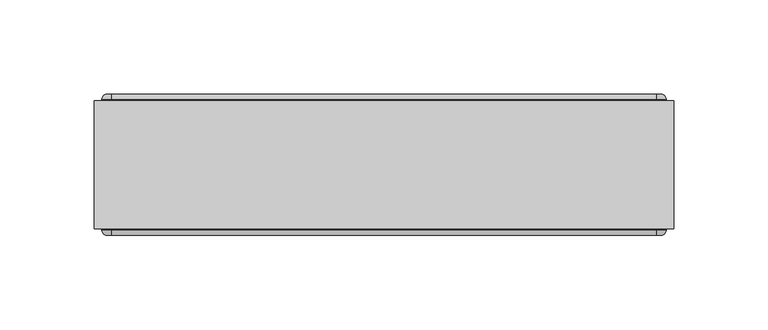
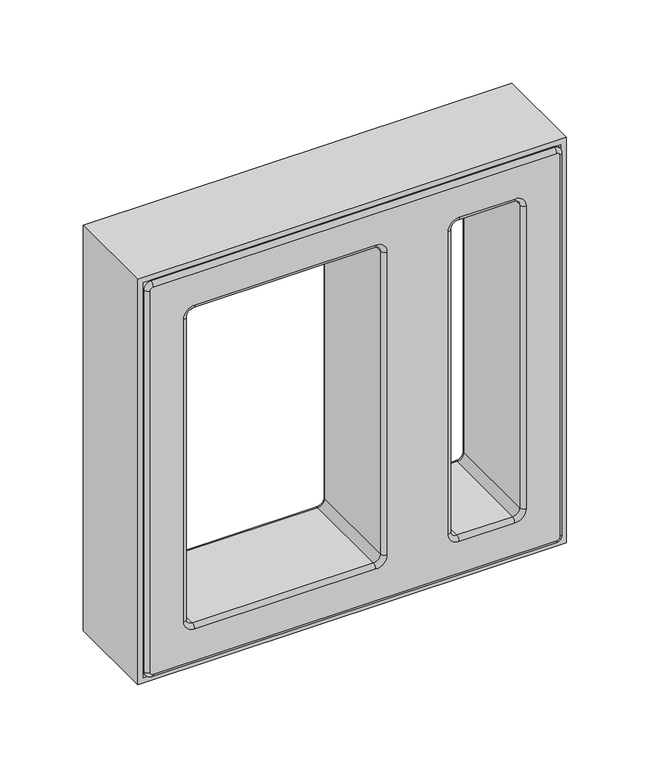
"""IFC4 building model written with IfcOpenShell, lengths in millimetres: plate geometry, PORTOBELLO - ELEMENTO ASSIM BRANCO 30X30 (PAINEL CORTINA) : ASSIM BRANCO."""

from ifc_helpers import new_model, si_unit, point, frame, origin, place, context, project, spatial, polyline, circle_curve, ellipse_curve, trimmed, outline, extrude, source, transform, mapped, element, save
from ifc_brep_helpers import plane_surface, cylinder_surface, revolved_surface, advanced_brep


def plate_08ec880d(model_context):
    return source(origin(), model_context, "Body", "SolidModel", [
        advanced_brep(
        [(-145.0, -37.5, 301.0), (-147.0, -37.5, 299.0), (-147.0, -37.5, 9.0), (-145.0, -37.5, 7.0), (145.0, -37.5, 7.0), (147.0, -37.5, 9.0), (147.0, -37.5, 299.0), (145.0, -37.5, 301.0), (-123.0, -37.5, 269.0), (-115.0, -37.5, 277.0), (15.0, -37.5, 277.0), (23.0, -37.5, 269.0), (23.0, -37.5, 39.0), (15.0, -37.5, 31.0), (-115.0, -37.5, 31.0), (-123.0, -37.5, 39.0), (67.0, -37.5, 269.0), (75.0, -37.5, 277.0), (115.0, -37.5, 277.0), (123.0, -37.5, 269.0), (123.0, -37.5, 39.0), (115.0, -37.5, 31.0), (75.0, -37.5, 31.0), (67.0, -37.5, 39.0), (-147.0, 37.5, 299.0), (-145.0, 37.5, 301.0), (145.0, 37.5, 301.0), (147.0, 37.5, 299.0), (147.0, 37.5, 9.0), (145.0, 37.5, 7.0), (-145.0, 37.5, 7.0), (-147.0, 37.5, 9.0), (-115.0, 37.5, 277.0), (-123.0, 37.5, 269.0), (-123.0, 37.5, 39.0), (-115.0, 37.5, 31.0), (15.0, 37.5, 31.0), (23.0, 37.5, 39.0), (23.0, 37.5, 269.0), (15.0, 37.5, 277.0), (75.0, 37.5, 277.0), (67.0, 37.5, 269.0), (67.0, 37.5, 39.0), (75.0, 37.5, 31.0), (115.0, 37.5, 31.0), (123.0, 37.5, 39.0), (123.0, 37.5, 269.0), (115.0, 37.5, 277.0), (-145.0, -34.5000013, 304.0), (-145.0, 34.5, 304.0), (-150.0, 34.5, 299.0), (-150.0, -34.5000025, 299.0), (-150.0, 34.5, 9.0), (-150.0, -34.5, 9.0), (-145.0, 34.5, 4.0), (-145.0, -34.5000025, 4.0), (145.0, 34.5, 4.0), (145.0, -34.5, 4.0), (150.0, 34.5, 9.0), (150.0, -34.5000025, 9.0), (150.0, 34.5, 299.0), (150.0, -34.5, 299.0), (145.0, 34.5, 304.0), (145.0, -34.5000025, 304.0), (-120.0, -34.5000026, 39.0), (-120.0, 34.5, 39.0), (-120.0, 34.5, 269.0), (-120.0, -34.5000016, 269.0), (-115.0, 34.5, 274.0), (-115.0, -34.5000016, 274.0), (15.0, 34.5, 274.0), (15.0, -34.5, 274.0), (20.0, 34.5, 269.0), (20.0, -34.5000016, 269.0), (20.0, 34.5, 39.0), (20.0, -34.5, 39.0), (15.0, 34.5, 34.0), (15.0, -34.5000016, 34.0), (-115.0, 34.5, 34.0), (-115.0, -34.5, 34.0), (120.0, -34.5000026, 269.0), (120.0, 34.5, 269.0), (120.0, 34.5, 39.0), (120.0, -34.5, 39.0), (115.0, 34.5, 34.0), (115.0, -34.5000017, 34.0), (75.0, 34.5, 34.0), (75.0, -34.5, 34.0), (70.0, 34.5, 39.0), (70.0, -34.5000017, 39.0), (70.0, 34.5, 269.0), (70.0, -34.5000016, 269.0), (75.0, 34.5, 274.0), (75.0, -34.5000016, 274.0), (115.0, 34.5, 274.0), (115.0, -34.5, 274.0)],
        [
            (0, 1, circle_curve(frame((-145.0, -37.5, 299.0), z_axis=(0.0, -1.0, 0.0), x_axis=(0.0, 0.0, 1.0)), 2.0)),
            (1, 2),
            (2, 3, circle_curve(frame((-145.0, -37.5, 9.0), z_axis=(0.0, -1.0, 0.0), x_axis=(-1.0, 0.0, 0.0)), 2.0)),
            (3, 4),
            (4, 5, circle_curve(frame((145.0, -37.5, 9.0), z_axis=(0.0, -1.0, 0.0), x_axis=(0.0, 0.0, -1.0)), 2.0)),
            (5, 6),
            (6, 7, circle_curve(frame((145.0, -37.5, 299.0), z_axis=(0.0, -1.0, 0.0), x_axis=(1.0, 0.0, 0.0)), 2.0)),
            (7, 0),
            (8, 9, circle_curve(frame((-115.0, -37.5, 269.0), z_axis=(0.0, 1.0, 0.0), x_axis=(-1.0, 0.0, 0.0)), 8.0)),
            (9, 10),
            (10, 11, circle_curve(frame((15.0, -37.5, 269.0), z_axis=(0.0, 1.0, 0.0), x_axis=(0.0, 0.0, 1.0)), 8.0)),
            (11, 12),
            (12, 13, circle_curve(frame((15.0, -37.5, 39.0), z_axis=(0.0, 1.0, 0.0), x_axis=(1.0, 0.0, 0.0)), 8.0)),
            (13, 14),
            (14, 15, circle_curve(frame((-115.0, -37.5, 39.0), z_axis=(0.0, 1.0, 0.0), x_axis=(0.0, 0.0, -1.0)), 8.0)),
            (15, 8),
            (16, 17, circle_curve(frame((75.0, -37.5, 269.0), z_axis=(0.0, 1.0, 0.0), x_axis=(-1.0, 0.0, 0.0)), 8.0)),
            (17, 18),
            (18, 19, circle_curve(frame((115.0, -37.5, 269.0), z_axis=(0.0, 1.0, 0.0), x_axis=(0.0, 0.0, 1.0)), 8.0)),
            (19, 20),
            (20, 21, circle_curve(frame((115.0, -37.5, 39.0), z_axis=(0.0, 1.0, 0.0), x_axis=(1.0, 0.0, 0.0)), 8.0)),
            (21, 22),
            (22, 23, circle_curve(frame((75.0, -37.5, 39.0), z_axis=(0.0, 1.0, 0.0), x_axis=(0.0, 0.0, -1.0)), 8.0)),
            (23, 16),
            (24, 25, circle_curve(frame((-145.0, 37.5, 299.0), z_axis=(0.0, 1.0, 0.0), x_axis=(0.0, 0.0, 1.0)), 2.0)),
            (25, 26),
            (26, 27, circle_curve(frame((145.0, 37.5, 299.0), z_axis=(0.0, 1.0, 0.0), x_axis=(1.0, 0.0, 0.0)), 2.0)),
            (27, 28),
            (28, 29, circle_curve(frame((145.0, 37.5, 9.0), z_axis=(0.0, 1.0, 0.0), x_axis=(0.0, 0.0, -1.0)), 2.0)),
            (29, 30),
            (30, 31, circle_curve(frame((-145.0, 37.5, 9.0), z_axis=(0.0, 1.0, 0.0), x_axis=(-1.0, 0.0, 0.0)), 2.0)),
            (31, 24),
            (32, 33, circle_curve(frame((-115.0, 37.5, 269.0), z_axis=(0.0, -1.0, 0.0), x_axis=(-1.0, 0.0, 0.0)), 8.0)),
            (33, 34),
            (34, 35, circle_curve(frame((-115.0, 37.5, 39.0), z_axis=(0.0, -1.0, 0.0), x_axis=(0.0, 0.0, -1.0)), 8.0)),
            (35, 36),
            (36, 37, circle_curve(frame((15.0, 37.5, 39.0), z_axis=(0.0, -1.0, 0.0), x_axis=(1.0, 0.0, 0.0)), 8.0)),
            (37, 38),
            (38, 39, circle_curve(frame((15.0, 37.5, 269.0), z_axis=(0.0, -1.0, 0.0), x_axis=(0.0, 0.0, 1.0)), 8.0)),
            (39, 32),
            (40, 41, circle_curve(frame((75.0, 37.5, 269.0), z_axis=(0.0, -1.0, 0.0), x_axis=(-1.0, 0.0, 0.0)), 8.0)),
            (41, 42),
            (42, 43, circle_curve(frame((75.0, 37.5, 39.0), z_axis=(0.0, -1.0, 0.0), x_axis=(0.0, 0.0, -1.0)), 8.0)),
            (43, 44),
            (44, 45, circle_curve(frame((115.0, 37.5, 39.0), z_axis=(0.0, -1.0, 0.0), x_axis=(1.0, 0.0, 0.0)), 8.0)),
            (45, 46),
            (46, 47, circle_curve(frame((115.0, 37.5, 269.0), z_axis=(0.0, -1.0, 0.0), x_axis=(0.0, 0.0, 1.0)), 8.0)),
            (47, 40),
            (48, 49),
            (49, 50, circle_curve(frame((-145.0, 34.5, 299.0), z_axis=(0.0, -1.0, 0.0), x_axis=(1.0, 0.0, 0.0)), 5.0)),
            (50, 51),
            (51, 48, circle_curve(frame((-145.0, -34.5, 299.0), z_axis=(0.0, 1.0, 0.0), x_axis=(1.0, 0.0, 0.0)), 5.0)),
            (50, 52),
            (52, 53),
            (53, 51),
            (52, 54, circle_curve(frame((-145.0, 34.5, 9.0), z_axis=(0.0, -1.0, 0.0), x_axis=(1.0, 0.0, 0.0)), 5.0)),
            (54, 55),
            (55, 53, circle_curve(frame((-145.0, -34.5, 9.0), z_axis=(0.0, 1.0, 0.0), x_axis=(1.0, 0.0, 0.0)), 5.0)),
            (54, 56),
            (56, 57),
            (57, 55),
            (56, 58, circle_curve(frame((145.0, 34.5, 9.0), z_axis=(0.0, -1.0, 0.0), x_axis=(1.0, 0.0, 0.0)), 5.0)),
            (58, 59),
            (59, 57, circle_curve(frame((145.0, -34.5, 9.0), z_axis=(0.0, 1.0, 0.0), x_axis=(1.0, 0.0, 0.0)), 5.0)),
            (58, 60),
            (60, 61),
            (61, 59),
            (60, 62, circle_curve(frame((145.0, 34.5, 299.0), z_axis=(0.0, -1.0, 0.0), x_axis=(1.0, 0.0, 0.0)), 5.0)),
            (62, 63),
            (63, 61, circle_curve(frame((145.0, -34.5, 299.0), z_axis=(0.0, 1.0, 0.0), x_axis=(1.0, 0.0, 0.0)), 5.0)),
            (48, 63),
            (62, 49),
            (64, 65),
            (65, 66),
            (66, 67),
            (67, 64),
            (66, 68, circle_curve(frame((-115.0, 34.5, 269.0), z_axis=(0.0, 1.0, 0.0), x_axis=(1.0, 0.0, 0.0)), 5.0)),
            (68, 69),
            (69, 67, circle_curve(frame((-115.0, -34.5, 269.0), z_axis=(0.0, -1.0, 0.0), x_axis=(1.0, 0.0, 0.0)), 5.0)),
            (68, 70),
            (70, 71),
            (71, 69),
            (70, 72, circle_curve(frame((15.0, 34.5, 269.0), z_axis=(0.0, 1.0, 0.0), x_axis=(1.0, 0.0, 0.0)), 5.0)),
            (72, 73),
            (73, 71, circle_curve(frame((15.0, -34.5, 269.0), z_axis=(0.0, -1.0, 0.0), x_axis=(1.0, 0.0, 0.0)), 5.0)),
            (72, 74),
            (74, 75),
            (75, 73),
            (74, 76, circle_curve(frame((15.0, 34.5, 39.0), z_axis=(0.0, 1.0, 0.0), x_axis=(1.0, 0.0, 0.0)), 5.0)),
            (76, 77),
            (77, 75, circle_curve(frame((15.0, -34.5, 39.0), z_axis=(0.0, -1.0, 0.0), x_axis=(1.0, 0.0, 0.0)), 5.0)),
            (76, 78),
            (78, 79),
            (79, 77),
            (64, 79, circle_curve(frame((-115.0, -34.5, 39.0), z_axis=(0.0, -1.0, 0.0), x_axis=(1.0, 0.0, 0.0)), 5.0)),
            (78, 65, circle_curve(frame((-115.0, 34.5, 39.0), z_axis=(0.0, 1.0, 0.0), x_axis=(1.0, 0.0, 0.0)), 5.0)),
            (80, 81),
            (81, 82),
            (82, 83),
            (83, 80),
            (82, 84, circle_curve(frame((115.0, 34.5, 39.0), z_axis=(0.0, 1.0, 0.0), x_axis=(1.0, 0.0, 0.0)), 5.0)),
            (84, 85),
            (85, 83, circle_curve(frame((115.0, -34.5, 39.0), z_axis=(0.0, -1.0, 0.0), x_axis=(1.0, 0.0, 0.0)), 5.0)),
            (84, 86),
            (86, 87),
            (87, 85),
            (86, 88, circle_curve(frame((75.0, 34.5, 39.0), z_axis=(0.0, 1.0, 0.0), x_axis=(1.0, 0.0, 0.0)), 5.0)),
            (88, 89),
            (89, 87, circle_curve(frame((75.0, -34.5, 39.0), z_axis=(0.0, -1.0, 0.0), x_axis=(1.0, 0.0, 0.0)), 5.0)),
            (88, 90),
            (90, 91),
            (91, 89),
            (90, 92, circle_curve(frame((75.0, 34.5, 269.0), z_axis=(0.0, 1.0, 0.0), x_axis=(1.0, 0.0, 0.0)), 5.0)),
            (92, 93),
            (93, 91, circle_curve(frame((75.0, -34.5, 269.0), z_axis=(0.0, -1.0, 0.0), x_axis=(1.0, 0.0, 0.0)), 5.0)),
            (92, 94),
            (94, 95),
            (95, 93),
            (80, 95, circle_curve(frame((115.0, -34.5, 269.0), z_axis=(0.0, -1.0, 0.0), x_axis=(1.0, 0.0, 0.0)), 5.0)),
            (94, 81, circle_curve(frame((115.0, 34.5, 269.0), z_axis=(0.0, 1.0, 0.0), x_axis=(1.0, 0.0, 0.0)), 5.0)),
            (51, 1, circle_curve(frame((-147.0, -34.5, 299.0), z_axis=(0.0, 0.0, 1.0), x_axis=(0.0, -1.0, 0.0)), 3.0)),
            (0, 48, circle_curve(frame((-145.0, -34.5, 301.0), z_axis=(-1.0, 0.0, 0.0), x_axis=(0.0, -1.0, 0.0)), 3.0)),
            (53, 2, circle_curve(frame((-147.0, -34.5, 9.0), z_axis=(0.0, 0.0, 1.0), x_axis=(0.0, -1.0, 0.0)), 3.0)),
            (55, 3, circle_curve(frame((-145.0, -34.5, 7.0), z_axis=(-1.0, 0.0, 0.0), x_axis=(0.0, -1.0, 0.0)), 3.0)),
            (57, 4, circle_curve(frame((145.0, -34.5, 7.0), z_axis=(-1.0, 0.0, 0.0), x_axis=(0.0, -1.0, 0.0)), 3.0)),
            (59, 5, circle_curve(frame((147.0, -34.5, 9.0), z_axis=(0.0, 0.0, -1.0), x_axis=(0.0, -1.0, 0.0)), 3.0)),
            (61, 6, circle_curve(frame((147.0, -34.5, 299.0), z_axis=(0.0, 0.0, -1.0), x_axis=(0.0, -1.0, 0.0)), 3.0)),
            (63, 7, circle_curve(frame((145.0, -34.5, 301.0), z_axis=(1.0, 0.0, 0.0), x_axis=(0.0, -1.0, 0.0)), 3.0)),
            (24, 50, circle_curve(frame((-147.0, 34.5, 299.0), z_axis=(0.0, 0.0, 1.0), x_axis=(0.0, -1.0, 0.0)), 3.0)),
            (49, 25, circle_curve(frame((-145.0, 34.5, 301.0), z_axis=(-1.0, 0.0, 0.0), x_axis=(0.0, -1.0, 0.0)), 3.0)),
            (31, 52, circle_curve(frame((-147.0, 34.5, 9.0), z_axis=(0.0, 0.0, 1.0), x_axis=(0.0, -1.0, 0.0)), 3.0)),
            (30, 54, circle_curve(frame((-145.0, 34.5, 7.0), z_axis=(-1.0, 0.0, 0.0), x_axis=(0.0, -1.0, 0.0)), 3.0)),
            (29, 56, circle_curve(frame((145.0, 34.5, 7.0), z_axis=(-1.0, 0.0, 0.0), x_axis=(0.0, -1.0, 0.0)), 3.0)),
            (28, 58, circle_curve(frame((147.0, 34.5, 9.0), z_axis=(0.0, 0.0, -1.0), x_axis=(0.0, -1.0, 0.0)), 3.0)),
            (27, 60, circle_curve(frame((147.0, 34.5, 299.0), z_axis=(0.0, 0.0, -1.0), x_axis=(0.0, -1.0, 0.0)), 3.0)),
            (26, 62, circle_curve(frame((145.0, 34.5, 301.0), z_axis=(1.0, 0.0, 0.0), x_axis=(0.0, -1.0, 0.0)), 3.0)),
            (69, 9, circle_curve(frame((-115.0, -34.5, 277.0), z_axis=(-1.0, 0.0, 0.0), x_axis=(0.0, -1.0, 0.0)), 3.0)),
            (8, 67, circle_curve(frame((-123.0, -34.5, 269.0), z_axis=(0.0, 0.0, 1.0), x_axis=(0.0, -1.0, 0.0)), 3.0)),
            (71, 10, circle_curve(frame((15.0, -34.5, 277.0), z_axis=(-1.0, 0.0, 0.0), x_axis=(0.0, -1.0, 0.0)), 3.0)),
            (73, 11, circle_curve(frame((23.0, -34.5, 269.0), z_axis=(0.0, 0.0, 1.0), x_axis=(0.0, -1.0, 0.0)), 3.0)),
            (75, 12, circle_curve(frame((23.0, -34.5, 39.0), z_axis=(0.0, 0.0, 1.0), x_axis=(0.0, -1.0, 0.0)), 3.0)),
            (77, 13, circle_curve(frame((15.0, -34.5, 31.0), z_axis=(1.0, 0.0, 0.0), x_axis=(0.0, -1.0, 0.0)), 3.0)),
            (79, 14, circle_curve(frame((-115.0, -34.5, 31.0), z_axis=(1.0, 0.0, 0.0), x_axis=(0.0, -1.0, 0.0)), 3.0)),
            (64, 15, circle_curve(frame((-123.0, -34.5, 39.0), z_axis=(0.0, 0.0, -1.0), x_axis=(0.0, -1.0, 0.0)), 3.0)),
            (32, 68, circle_curve(frame((-115.0, 34.5, 277.0), z_axis=(-1.0, 0.0, 0.0), x_axis=(0.0, -1.0, 0.0)), 3.0)),
            (66, 33, circle_curve(frame((-123.0, 34.5, 269.0), z_axis=(0.0, 0.0, 1.0), x_axis=(0.0, -1.0, 0.0)), 3.0)),
            (39, 70, circle_curve(frame((15.0, 34.5, 277.0), z_axis=(-1.0, 0.0, 0.0), x_axis=(0.0, -1.0, 0.0)), 3.0)),
            (38, 72, circle_curve(frame((23.0, 34.5, 269.0), z_axis=(0.0, 0.0, 1.0), x_axis=(0.0, -1.0, 0.0)), 3.0)),
            (37, 74, circle_curve(frame((23.0, 34.5, 39.0), z_axis=(0.0, 0.0, 1.0), x_axis=(0.0, -1.0, 0.0)), 3.0)),
            (36, 76, circle_curve(frame((15.0, 34.5, 31.0), z_axis=(1.0, 0.0, 0.0), x_axis=(0.0, -1.0, 0.0)), 3.0)),
            (35, 78, circle_curve(frame((-115.0, 34.5, 31.0), z_axis=(1.0, 0.0, 0.0), x_axis=(0.0, -1.0, 0.0)), 3.0)),
            (34, 65, circle_curve(frame((-123.0, 34.5, 39.0), z_axis=(0.0, 0.0, -1.0), x_axis=(0.0, -1.0, 0.0)), 3.0)),
            (93, 17, circle_curve(frame((75.0, -34.5, 277.0), z_axis=(-1.0, 0.0, 0.0), x_axis=(0.0, -1.0, 0.0)), 3.0)),
            (16, 91, circle_curve(frame((67.0, -34.5, 269.0), z_axis=(0.0, 0.0, 1.0), x_axis=(0.0, -1.0, 0.0)), 3.0)),
            (40, 92, circle_curve(frame((75.0, 34.5, 277.0), z_axis=(-1.0, 0.0, 0.0), x_axis=(0.0, -1.0, 0.0)), 3.0)),
            (90, 41, circle_curve(frame((67.0, 34.5, 269.0), z_axis=(0.0, 0.0, 1.0), x_axis=(0.0, -1.0, 0.0)), 3.0)),
            (95, 18, circle_curve(frame((115.0, -34.5, 277.0), z_axis=(-1.0, 0.0, 0.0), x_axis=(0.0, -1.0, 0.0)), 3.0)),
            (47, 94, circle_curve(frame((115.0, 34.5, 277.0), z_axis=(-1.0, 0.0, 0.0), x_axis=(0.0, -1.0, 0.0)), 3.0)),
            (80, 19, circle_curve(frame((123.0, -34.5, 269.0), z_axis=(0.0, 0.0, 1.0), x_axis=(0.0, -1.0, 0.0)), 3.0)),
            (46, 81, circle_curve(frame((123.0, 34.5, 269.0), z_axis=(0.0, 0.0, 1.0), x_axis=(0.0, -1.0, 0.0)), 3.0)),
            (83, 20, circle_curve(frame((123.0, -34.5, 39.0), z_axis=(0.0, 0.0, 1.0), x_axis=(0.0, -1.0, 0.0)), 3.0)),
            (45, 82, circle_curve(frame((123.0, 34.5, 39.0), z_axis=(0.0, 0.0, 1.0), x_axis=(0.0, -1.0, 0.0)), 3.0)),
            (85, 21, circle_curve(frame((115.0, -34.5, 31.0), z_axis=(1.0, 0.0, 0.0), x_axis=(0.0, -1.0, 0.0)), 3.0)),
            (44, 84, circle_curve(frame((115.0, 34.5, 31.0), z_axis=(1.0, 0.0, 0.0), x_axis=(0.0, -1.0, 0.0)), 3.0)),
            (87, 22, circle_curve(frame((75.0, -34.5, 31.0), z_axis=(1.0, 0.0, 0.0), x_axis=(0.0, -1.0, 0.0)), 3.0)),
            (43, 86, circle_curve(frame((75.0, 34.5, 31.0), z_axis=(1.0, 0.0, 0.0), x_axis=(0.0, -1.0, 0.0)), 3.0)),
            (89, 23, circle_curve(frame((67.0, -34.5, 39.0), z_axis=(0.0, 0.0, -1.0), x_axis=(0.0, -1.0, 0.0)), 3.0)),
            (42, 88, circle_curve(frame((67.0, 34.5, 39.0), z_axis=(0.0, 0.0, -1.0), x_axis=(0.0, -1.0, 0.0)), 3.0)),
        ],
        [
            plane_surface(frame((-140.0, -37.5, 299.0), z_axis=(0.0, -1.0, 0.0), x_axis=(0.0, 0.0, 1.0))),
            plane_surface(frame((-140.0, 37.5, 299.0), z_axis=(0.0, 1.0, 0.0), x_axis=(0.0, 0.0, -1.0))),
            cylinder_surface(frame((-145.0, 37.5, 299.0), z_axis=(0.0, -1.0, 0.0), x_axis=(1.0, 0.0, 0.0)), 5.0),
            plane_surface(frame((-150.0, -37.5, 299.0), z_axis=(-1.0, 0.0, 0.0), x_axis=(0.0, 1.0, 0.0))),
            cylinder_surface(frame((-145.0, 37.5, 9.0), z_axis=(0.0, -1.0, 0.0), x_axis=(1.0, 0.0, 0.0)), 5.0),
            plane_surface(frame((-145.0, -37.5, 4.0), z_axis=(0.0, 0.0, -1.0), x_axis=(0.0, 1.0, 0.0))),
            cylinder_surface(frame((145.0, 37.5, 9.0), z_axis=(0.0, -1.0, 0.0), x_axis=(1.0, 0.0, 0.0)), 5.0),
            plane_surface(frame((150.0, -37.5, 9.0), z_axis=(1.0, 0.0, 0.0), x_axis=(0.0, 1.0, 0.0))),
            cylinder_surface(frame((145.0, 37.5, 299.0), z_axis=(0.0, -1.0, 0.0), x_axis=(1.0, 0.0, 0.0)), 5.0),
            plane_surface(frame((145.0, -37.5, 304.0), z_axis=(0.0, 0.0, 1.0), x_axis=(0.0, 1.0, 0.0))),
            plane_surface(frame((-120.0, -37.5, 39.0), z_axis=(1.0, 0.0, 0.0), x_axis=(0.0, 1.0, 0.0))),
            revolved_surface(polyline([(-110.0, 34.5, 269.0), (-110.0, -34.5000016, 269.0)]), (-115.0, 0.0, 269.0), (0.0, 1.0, 0.0)),
            plane_surface(frame((-115.0, -37.5, 274.0), z_axis=(0.0, 0.0, -1.0), x_axis=(0.0, 1.0, 0.0))),
            revolved_surface(polyline([(20.0, 34.5, 269.0), (20.0, -34.5000016, 269.0)]), (15.0, 0.0, 269.0), (0.0, 1.0, 0.0)),
            plane_surface(frame((20.0, -37.5, 269.0), z_axis=(-1.0, 0.0, 0.0), x_axis=(0.0, 1.0, 0.0))),
            revolved_surface(polyline([(20.0, 34.5, 39.0), (20.0, -34.5000016, 39.0)]), (15.0, 0.0, 39.0), (0.0, 1.0, 0.0)),
            plane_surface(frame((15.0, -37.5, 34.0), z_axis=(0.0, 0.0, 1.0), x_axis=(0.0, 1.0, 0.0))),
            revolved_surface(polyline([(-110.0, 34.5, 39.0), (-110.0, -34.5000026, 39.0)]), (-115.0, 0.0, 39.0), (0.0, 1.0, 0.0)),
            plane_surface(frame((120.0, -37.5, 269.0), z_axis=(-1.0, 0.0, 0.0), x_axis=(0.0, 1.0, 0.0))),
            revolved_surface(polyline([(120.0, 34.5, 39.0), (120.0, -34.5000017, 39.0)]), (115.0, 0.0, 39.0), (0.0, 1.0, 0.0)),
            plane_surface(frame((115.0, -37.5, 34.0), z_axis=(0.0, 0.0, 1.0), x_axis=(0.0, 1.0, 0.0))),
            revolved_surface(polyline([(80.0, 34.5, 39.0), (80.0, -34.5000017, 39.0)]), (75.0, 0.0, 39.0), (0.0, 1.0, 0.0)),
            plane_surface(frame((70.0, -37.5, 39.0), z_axis=(1.0, 0.0, 0.0), x_axis=(0.0, 1.0, 0.0))),
            revolved_surface(polyline([(80.0, 34.5, 269.0), (80.0, -34.5000016, 269.0)]), (75.0, 0.0, 269.0), (0.0, 1.0, 0.0)),
            plane_surface(frame((75.0, -37.5, 274.0), z_axis=(0.0, 0.0, -1.0), x_axis=(0.0, 1.0, 0.0))),
            revolved_surface(polyline([(120.0, 34.5, 269.0), (120.0, -34.5000026, 269.0)]), (115.0, 0.0, 269.0), (0.0, 1.0, 0.0)),
            revolved_surface(trimmed(ellipse_curve(frame((-145.0, -34.5, 301.0), z_axis=(1.0, 0.0, 0.0), x_axis=(0.0, -1.0, 0.0)), 3.0, 3.0), [point((-145.0, -34.5, 304.0))], [point((-145.0, -37.5, 301.0))], True, "CARTESIAN"), (-145.0, -37.5, 299.0), (0.0, -1.0, 0.0)),
            cylinder_surface(frame((-147.0, -34.5, 299.0), z_axis=(0.0, 0.0, -1.0), x_axis=(0.0, -1.0, 0.0)), 3.0),
            revolved_surface(trimmed(ellipse_curve(frame((-147.0, -34.5, 9.0), z_axis=(0.0, 0.0, 1.0), x_axis=(0.0, -1.0, 0.0)), 3.0, 3.0), [point((-150.0, -34.5, 9.0))], [point((-147.0, -37.5, 9.0))], True, "CARTESIAN"), (-145.0, -37.5, 9.0), (0.0, -1.0, 0.0)),
            cylinder_surface(frame((-145.0, -34.5, 7.0), z_axis=(1.0, 0.0, 0.0), x_axis=(0.0, -1.0, 0.0)), 3.0),
            revolved_surface(trimmed(ellipse_curve(frame((145.0, -34.5, 7.0), z_axis=(-1.0, 0.0, 0.0), x_axis=(0.0, -1.0, 0.0)), 3.0, 3.0), [point((145.0, -34.5, 4.0))], [point((145.0, -37.5, 7.0))], True, "CARTESIAN"), (145.0, -37.5, 9.0), (0.0, -1.0, 0.0)),
            cylinder_surface(frame((147.0, -34.5, 9.0), z_axis=(0.0, 0.0, 1.0), x_axis=(0.0, -1.0, 0.0)), 3.0),
            revolved_surface(trimmed(ellipse_curve(frame((147.0, -34.5, 299.0), z_axis=(0.0, 0.0, -1.0), x_axis=(0.0, -1.0, 0.0)), 3.0, 3.0), [point((150.0, -34.5, 299.0))], [point((147.0, -37.5, 299.0))], True, "CARTESIAN"), (145.0, -37.5, 299.0), (0.0, -1.0, 0.0)),
            cylinder_surface(frame((145.0, -34.5, 301.0), z_axis=(-1.0, 0.0, 0.0), x_axis=(0.0, -1.0, 0.0)), 3.0),
            revolved_surface(trimmed(ellipse_curve(frame((-145.0, 34.5, 301.0), z_axis=(1.0, 0.0, 0.0), x_axis=(0.0, -1.0, 0.0)), 3.0, 3.0), [point((-145.0, 37.5, 301.0))], [point((-145.0, 34.5, 304.0))], True, "CARTESIAN"), (-145.0, -37.5, 299.0), (0.0, -1.0, 0.0)),
            cylinder_surface(frame((-147.0, 34.5, 299.0), z_axis=(0.0, 0.0, -1.0), x_axis=(0.0, -1.0, 0.0)), 3.0),
            revolved_surface(trimmed(ellipse_curve(frame((-147.0, 34.5, 9.0), z_axis=(0.0, 0.0, 1.0), x_axis=(0.0, -1.0, 0.0)), 3.0, 3.0), [point((-147.0, 37.5, 9.0))], [point((-150.0, 34.5, 9.0))], True, "CARTESIAN"), (-145.0, -37.5, 9.0), (0.0, -1.0, 0.0)),
            cylinder_surface(frame((-145.0, 34.5, 7.0), z_axis=(1.0, 0.0, 0.0), x_axis=(0.0, -1.0, 0.0)), 3.0),
            revolved_surface(trimmed(ellipse_curve(frame((145.0, 34.5, 7.0), z_axis=(-1.0, 0.0, 0.0), x_axis=(0.0, -1.0, 0.0)), 3.0, 3.0), [point((145.0, 37.5, 7.0))], [point((145.0, 34.5, 4.0))], True, "CARTESIAN"), (145.0, -37.5, 9.0), (0.0, -1.0, 0.0)),
            cylinder_surface(frame((147.0, 34.5, 9.0), z_axis=(0.0, 0.0, 1.0), x_axis=(0.0, -1.0, 0.0)), 3.0),
            revolved_surface(trimmed(ellipse_curve(frame((147.0, 34.5, 299.0), z_axis=(0.0, 0.0, -1.0), x_axis=(0.0, -1.0, 0.0)), 3.0, 3.0), [point((147.0, 37.5, 299.0))], [point((150.0, 34.5, 299.0))], True, "CARTESIAN"), (145.0, -37.5, 299.0), (0.0, -1.0, 0.0)),
            cylinder_surface(frame((145.0, 34.5, 301.0), z_axis=(-1.0, 0.0, 0.0), x_axis=(0.0, -1.0, 0.0)), 3.0),
            revolved_surface(trimmed(ellipse_curve(frame((-123.0, -34.5, 269.0), z_axis=(0.0, 0.0, -1.0), x_axis=(0.0, -1.0, 0.0)), 3.0, 3.0), [point((-120.0, -34.5, 269.0))], [point((-123.0, -37.5, 269.0))], True, "CARTESIAN"), (-115.0, -37.5, 269.0), (0.0, 1.0, 0.0)),
            cylinder_surface(frame((-115.0, -34.5, 277.0), z_axis=(1.0, 0.0, 0.0), x_axis=(0.0, -1.0, 0.0)), 3.0),
            revolved_surface(trimmed(ellipse_curve(frame((15.0, -34.5, 277.0), z_axis=(-1.0, 0.0, 0.0), x_axis=(0.0, -1.0, 0.0)), 3.0, 3.0), [point((15.0, -34.5, 274.0))], [point((15.0, -37.5, 277.0))], True, "CARTESIAN"), (15.0, -37.5, 269.0), (0.0, 1.0, 0.0)),
            cylinder_surface(frame((23.0, -34.5, 269.0), z_axis=(0.0, 0.0, -1.0), x_axis=(0.0, -1.0, 0.0)), 3.0),
            revolved_surface(trimmed(ellipse_curve(frame((23.0, -34.5, 39.0), z_axis=(0.0, 0.0, 1.0), x_axis=(0.0, -1.0, 0.0)), 3.0, 3.0), [point((20.0, -34.5, 39.0))], [point((23.0, -37.5, 39.0))], True, "CARTESIAN"), (15.0, -37.5, 39.0), (0.0, 1.0, 0.0)),
            cylinder_surface(frame((15.0, -34.5, 31.0), z_axis=(-1.0, 0.0, 0.0), x_axis=(0.0, -1.0, 0.0)), 3.0),
            revolved_surface(trimmed(ellipse_curve(frame((-115.0, -34.5, 31.0), z_axis=(1.0, 0.0, 0.0), x_axis=(0.0, -1.0, 0.0)), 3.0, 3.0), [point((-115.0, -34.5, 34.0))], [point((-115.0, -37.5, 31.0))], True, "CARTESIAN"), (-115.0, -37.5, 39.0), (0.0, 1.0, 0.0)),
            cylinder_surface(frame((-123.0, -34.5, 39.0), z_axis=(0.0, 0.0, 1.0), x_axis=(0.0, -1.0, 0.0)), 3.0),
            revolved_surface(trimmed(ellipse_curve(frame((-123.0, 34.5, 269.0), z_axis=(0.0, 0.0, -1.0), x_axis=(0.0, -1.0, 0.0)), 3.0, 3.0), [point((-123.0, 37.5, 269.0))], [point((-120.0, 34.5, 269.0))], True, "CARTESIAN"), (-115.0, -37.5, 269.0), (0.0, 1.0, 0.0)),
            cylinder_surface(frame((-115.0, 34.5, 277.0), z_axis=(1.0, 0.0, 0.0), x_axis=(0.0, -1.0, 0.0)), 3.0),
            revolved_surface(trimmed(ellipse_curve(frame((15.0, 34.5, 277.0), z_axis=(-1.0, 0.0, 0.0), x_axis=(0.0, -1.0, 0.0)), 3.0, 3.0), [point((15.0, 37.5, 277.0))], [point((15.0, 34.5, 274.0))], True, "CARTESIAN"), (15.0, -37.5, 269.0), (0.0, 1.0, 0.0)),
            cylinder_surface(frame((23.0, 34.5, 269.0), z_axis=(0.0, 0.0, -1.0), x_axis=(0.0, -1.0, 0.0)), 3.0),
            revolved_surface(trimmed(ellipse_curve(frame((23.0, 34.5, 39.0), z_axis=(0.0, 0.0, 1.0), x_axis=(0.0, -1.0, 0.0)), 3.0, 3.0), [point((23.0, 37.5, 39.0))], [point((20.0, 34.5, 39.0))], True, "CARTESIAN"), (15.0, -37.5, 39.0), (0.0, 1.0, 0.0)),
            cylinder_surface(frame((15.0, 34.5, 31.0), z_axis=(-1.0, 0.0, 0.0), x_axis=(0.0, -1.0, 0.0)), 3.0),
            revolved_surface(trimmed(ellipse_curve(frame((-115.0, 34.5, 31.0), z_axis=(1.0, 0.0, 0.0), x_axis=(0.0, -1.0, 0.0)), 3.0, 3.0), [point((-115.0, 37.5, 31.0))], [point((-115.0, 34.5, 34.0))], True, "CARTESIAN"), (-115.0, -37.5, 39.0), (0.0, 1.0, 0.0)),
            cylinder_surface(frame((-123.0, 34.5, 39.0), z_axis=(0.0, 0.0, 1.0), x_axis=(0.0, -1.0, 0.0)), 3.0),
            revolved_surface(trimmed(ellipse_curve(frame((67.0, -34.5, 269.0), z_axis=(0.0, 0.0, -1.0), x_axis=(0.0, -1.0, 0.0)), 3.0, 3.0), [point((70.0, -34.5, 269.0))], [point((67.0, -37.5, 269.0))], True, "CARTESIAN"), (75.0, -37.5, 269.0), (0.0, 1.0, 0.0)),
            revolved_surface(trimmed(ellipse_curve(frame((67.0, 34.5, 269.0), z_axis=(0.0, 0.0, -1.0), x_axis=(0.0, -1.0, 0.0)), 3.0, 3.0), [point((67.0, 37.5, 269.0))], [point((70.0, 34.5, 269.0))], True, "CARTESIAN"), (75.0, -37.5, 269.0), (0.0, 1.0, 0.0)),
            cylinder_surface(frame((75.0, -34.5, 277.0), z_axis=(1.0, 0.0, 0.0), x_axis=(0.0, -1.0, 0.0)), 3.0),
            cylinder_surface(frame((75.0, 34.5, 277.0), z_axis=(1.0, 0.0, 0.0), x_axis=(0.0, -1.0, 0.0)), 3.0),
            revolved_surface(trimmed(ellipse_curve(frame((115.0, -34.5, 277.0), z_axis=(-1.0, 0.0, 0.0), x_axis=(0.0, -1.0, 0.0)), 3.0, 3.0), [point((115.0, -34.5, 274.0))], [point((115.0, -37.5, 277.0))], True, "CARTESIAN"), (115.0, -37.5, 269.0), (0.0, 1.0, 0.0)),
            revolved_surface(trimmed(ellipse_curve(frame((115.0, 34.5, 277.0), z_axis=(-1.0, 0.0, 0.0), x_axis=(0.0, -1.0, 0.0)), 3.0, 3.0), [point((115.0, 37.5, 277.0))], [point((115.0, 34.5, 274.0))], True, "CARTESIAN"), (115.0, -37.5, 269.0), (0.0, 1.0, 0.0)),
            cylinder_surface(frame((123.0, -34.5, 269.0), z_axis=(0.0, 0.0, -1.0), x_axis=(0.0, -1.0, 0.0)), 3.0),
            cylinder_surface(frame((123.0, 34.5, 269.0), z_axis=(0.0, 0.0, -1.0), x_axis=(0.0, -1.0, 0.0)), 3.0),
            revolved_surface(trimmed(ellipse_curve(frame((123.0, -34.5, 39.0), z_axis=(0.0, 0.0, 1.0), x_axis=(0.0, -1.0, 0.0)), 3.0, 3.0), [point((120.0, -34.5, 39.0))], [point((123.0, -37.5, 39.0))], True, "CARTESIAN"), (115.0, -37.5, 39.0), (0.0, 1.0, 0.0)),
            revolved_surface(trimmed(ellipse_curve(frame((123.0, 34.5, 39.0), z_axis=(0.0, 0.0, 1.0), x_axis=(0.0, -1.0, 0.0)), 3.0, 3.0), [point((123.0, 37.5, 39.0))], [point((120.0, 34.5, 39.0))], True, "CARTESIAN"), (115.0, -37.5, 39.0), (0.0, 1.0, 0.0)),
            cylinder_surface(frame((115.0, -34.5, 31.0), z_axis=(-1.0, 0.0, 0.0), x_axis=(0.0, -1.0, 0.0)), 3.0),
            cylinder_surface(frame((115.0, 34.5, 31.0), z_axis=(-1.0, 0.0, 0.0), x_axis=(0.0, -1.0, 0.0)), 3.0),
            revolved_surface(trimmed(ellipse_curve(frame((75.0, -34.5, 31.0), z_axis=(1.0, 0.0, 0.0), x_axis=(0.0, -1.0, 0.0)), 3.0, 3.0), [point((75.0, -34.5, 34.0))], [point((75.0, -37.5, 31.0))], True, "CARTESIAN"), (75.0, -37.5, 39.0), (0.0, 1.0, 0.0)),
            revolved_surface(trimmed(ellipse_curve(frame((75.0, 34.5, 31.0), z_axis=(1.0, 0.0, 0.0), x_axis=(0.0, -1.0, 0.0)), 3.0, 3.0), [point((75.0, 37.5, 31.0))], [point((75.0, 34.5, 34.0))], True, "CARTESIAN"), (75.0, -37.5, 39.0), (0.0, 1.0, 0.0)),
            cylinder_surface(frame((67.0, -34.5, 39.0), z_axis=(0.0, 0.0, 1.0), x_axis=(0.0, -1.0, 0.0)), 3.0),
            cylinder_surface(frame((67.0, 34.5, 39.0), z_axis=(0.0, 0.0, 1.0), x_axis=(0.0, -1.0, 0.0)), 3.0),
        ],
        [
            (0, [[1, 2, 3, 4, 5, 6, 7, 8], [9, 10, 11, 12, 13, 14, 15, 16], [17, 18, 19, 20, 21, 22, 23, 24]]),
            (1, [[25, 26, 27, 28, 29, 30, 31, 32], [33, 34, 35, 36, 37, 38, 39, 40], [41, 42, 43, 44, 45, 46, 47, 48]]),
            (2, [[49, 50, 51, 52]]),
            (3, [[-51, 53, 54, 55]]),
            (4, [[-54, 56, 57, 58]]),
            (5, [[-57, 59, 60, 61]]),
            (6, [[-60, 62, 63, 64]]),
            (7, [[-63, 65, 66, 67]]),
            (8, [[-66, 68, 69, 70]]),
            (9, [[-49, 71, -69, 72]]),
            (10, [[73, 74, 75, 76]]),
            (11, [[-75, 77, 78, 79]]),
            (12, [[-78, 80, 81, 82]]),
            (13, [[-81, 83, 84, 85]]),
            (14, [[-84, 86, 87, 88]]),
            (15, [[-87, 89, 90, 91]]),
            (16, [[-90, 92, 93, 94]]),
            (17, [[-73, 95, -93, 96]]),
            (18, [[97, 98, 99, 100]]),
            (19, [[-99, 101, 102, 103]]),
            (20, [[-102, 104, 105, 106]]),
            (21, [[-105, 107, 108, 109]]),
            (22, [[-108, 110, 111, 112]]),
            (23, [[-111, 113, 114, 115]]),
            (24, [[-114, 116, 117, 118]]),
            (25, [[-97, 119, -117, 120]]),
            (26, [[121, -1, 122, -52]]),
            (27, [[-121, -55, 123, -2]]),
            (28, [[-123, -58, 124, -3]]),
            (29, [[-124, -61, 125, -4]]),
            (30, [[-125, -64, 126, -5]]),
            (31, [[-126, -67, 127, -6]]),
            (32, [[-127, -70, 128, -7]]),
            (33, [[-122, -8, -128, -71]]),
            (34, [[129, -50, 130, -25]]),
            (35, [[-129, -32, 131, -53]]),
            (36, [[-131, -31, 132, -56]]),
            (37, [[-132, -30, 133, -59]]),
            (38, [[-133, -29, 134, -62]]),
            (39, [[-134, -28, 135, -65]]),
            (40, [[-135, -27, 136, -68]]),
            (41, [[-130, -72, -136, -26]]),
            (42, [[137, -9, 138, -79]]),
            (43, [[-137, -82, 139, -10]]),
            (44, [[-139, -85, 140, -11]]),
            (45, [[-140, -88, 141, -12]]),
            (46, [[-141, -91, 142, -13]]),
            (47, [[-142, -94, 143, -14]]),
            (48, [[-143, -95, 144, -15]]),
            (49, [[-138, -16, -144, -76]]),
            (50, [[145, -77, 146, -33]]),
            (51, [[-145, -40, 147, -80]]),
            (52, [[-147, -39, 148, -83]]),
            (53, [[-148, -38, 149, -86]]),
            (54, [[-149, -37, 150, -89]]),
            (55, [[-150, -36, 151, -92]]),
            (56, [[-151, -35, 152, -96]]),
            (57, [[-146, -74, -152, -34]]),
            (58, [[153, -17, 154, -115]]),
            (59, [[155, -113, 156, -41]]),
            (60, [[-153, -118, 157, -18]]),
            (61, [[-155, -48, 158, -116]]),
            (62, [[-157, -119, 159, -19]]),
            (63, [[-158, -47, 160, -120]]),
            (64, [[-159, -100, 161, -20]]),
            (65, [[-160, -46, 162, -98]]),
            (66, [[-161, -103, 163, -21]]),
            (67, [[-162, -45, 164, -101]]),
            (68, [[-163, -106, 165, -22]]),
            (69, [[-164, -44, 166, -104]]),
            (70, [[-165, -109, 167, -23]]),
            (71, [[-166, -43, 168, -107]]),
            (72, [[-154, -24, -167, -112]]),
            (73, [[-156, -110, -168, -42]]),
        ],
    ),
        extrude(outline(polyline([(308.0, -154.0), (0.0, -154.0), (0.0, 154.0), (308.0, 154.0), (308.0, -154.0)]), holes=[polyline([(4.0, -150.0), (304.0, -150.0), (304.0, 150.0), (4.0, 150.0), (4.0, -150.0)])]), frame((0.0, -34.0, 0.0), z_axis=(0.0, 1.0, 0.0), x_axis=(0.0, 0.0, 1.0)), (0.0, 0.0, 1.0), 68.0),
    ])


if __name__ == "__main__":
    model = new_model("IFC4")
    model_context = context("Model", 3, world=origin())
    ifc_project = project(units=[si_unit("LENGTHUNIT", "METRE", prefix="MILLI")], contexts=[model_context])
    site = spatial("IfcSite", under=ifc_project)
    building = spatial("IfcBuilding", under=site)
    placement = place(None, origin())
    plate_shape = plate_08ec880d(model_context)
    element("IfcPlate", 1, ObjectType="PORTOBELLO - ELEMENTO ASSIM BRANCO 30X30 (PAINEL CORTINA) : ASSIM BRANCO", at=placement, inside=building, context=model_context, shape_type="MappedRepresentation", body=[
        mapped(plate_shape, transform((0.0, 0.0, 0.0), x_axis=(1.0, 0.0, 0.0), y_axis=(0.0, 1.0, 0.0), z_axis=(0.0, 0.0, 1.0))),
    ])
    save(model, "model.ifc")
